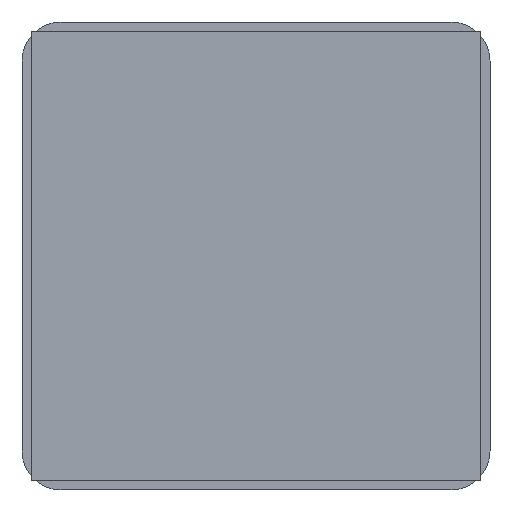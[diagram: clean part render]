
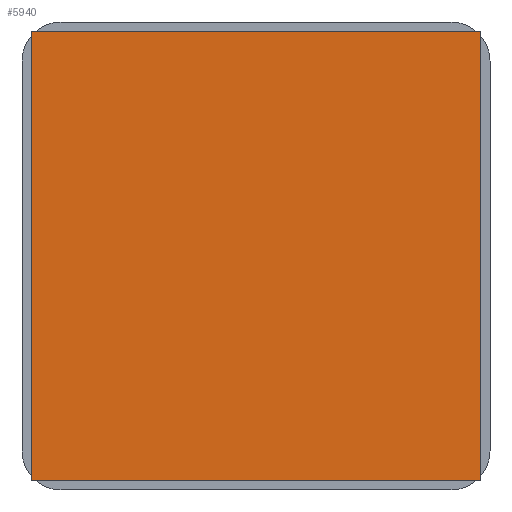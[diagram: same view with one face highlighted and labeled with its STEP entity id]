
A CAD part, front view. The second image highlights one B-rep face of the part: STEP entity #5940.
In plain terms, the highlighted planar face has unit normal (0, -1, 0).
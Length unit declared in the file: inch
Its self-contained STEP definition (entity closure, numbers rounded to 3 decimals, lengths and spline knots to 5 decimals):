
#186 = DIRECTION ( 'NONE',  ( 0., 0., 1. ) ) ;
#560 = VERTEX_POINT ( 'NONE', #2399 ) ;
#672 = VERTEX_POINT ( 'NONE', #1847 ) ;
#1319 = CARTESIAN_POINT ( 'NONE',  ( -0.74803, -0.005, 0.74803 ) ) ;
#1428 = FACE_OUTER_BOUND ( 'NONE', #7231, .T. ) ;
#1847 = CARTESIAN_POINT ( 'NONE',  ( -0.74803, -0.005, -0.74803 ) ) ;
#1862 = VERTEX_POINT ( 'NONE', #2049 ) ;
#1889 = CARTESIAN_POINT ( 'NONE',  ( 0.74803, -0.005, -0.74803 ) ) ;
#2018 = VECTOR ( 'NONE', #8332, 39.37008 ) ;
#2049 = CARTESIAN_POINT ( 'NONE',  ( 0.74803, -0.005, -0.74803 ) ) ;
#2102 = EDGE_CURVE ( 'NONE', #560, #3553, #2133, .T. ) ;
#2133 = LINE ( 'NONE', #1319, #2018 ) ;
#2259 = LINE ( 'NONE', #7868, #5736 ) ;
#2399 = CARTESIAN_POINT ( 'NONE',  ( -0.74803, -0.005, 0.74803 ) ) ;
#2400 = DIRECTION ( 'NONE',  ( -1., 0., 0. ) ) ;
#2460 = ORIENTED_EDGE ( 'NONE', *, *, #7517, .F. ) ;
#2524 = CARTESIAN_POINT ( 'NONE',  ( 0.74803, -0.005, 0.74803 ) ) ;
#2725 = PLANE ( 'NONE',  #4637 ) ;
#3228 = ORIENTED_EDGE ( 'NONE', *, *, #4014, .F. ) ;
#3244 = LINE ( 'NONE', #1889, #4902 ) ;
#3553 = VERTEX_POINT ( 'NONE', #2524 ) ;
#3765 = DIRECTION ( 'NONE',  ( 0., 0., -1. ) ) ;
#4014 = EDGE_CURVE ( 'NONE', #1862, #672, #2259, .T. ) ;
#4219 = VECTOR ( 'NONE', #186, 39.37008 ) ;
#4396 = CARTESIAN_POINT ( 'NONE',  ( -0.74803, -0.005, 0.74803 ) ) ;
#4637 = AXIS2_PLACEMENT_3D ( 'NONE', #4396, #7774, #7264 ) ;
#4902 = VECTOR ( 'NONE', #3765, 39.37008 ) ;
#5736 = VECTOR ( 'NONE', #2400, 39.37008 ) ;
#5940 = ADVANCED_FACE ( 'NONE', ( #1428 ), #2725, .F. ) ;
#6490 = EDGE_CURVE ( 'NONE', #3553, #1862, #3244, .T. ) ;
#6496 = LINE ( 'NONE', #7239, #4219 ) ;
#7231 = EDGE_LOOP ( 'NONE', ( #2460, #3228, #8416, #7819 ) ) ;
#7239 = CARTESIAN_POINT ( 'NONE',  ( -0.74803, -0.005, -0.74803 ) ) ;
#7264 = DIRECTION ( 'NONE',  ( 0., 0., 1. ) ) ;
#7517 = EDGE_CURVE ( 'NONE', #672, #560, #6496, .T. ) ;
#7774 = DIRECTION ( 'NONE',  ( 0., 1., 0. ) ) ;
#7819 = ORIENTED_EDGE ( 'NONE', *, *, #2102, .F. ) ;
#7868 = CARTESIAN_POINT ( 'NONE',  ( -0.74803, -0.005, -0.74803 ) ) ;
#8332 = DIRECTION ( 'NONE',  ( 1., 0., 0. ) ) ;
#8416 = ORIENTED_EDGE ( 'NONE', *, *, #6490, .F. ) ;
